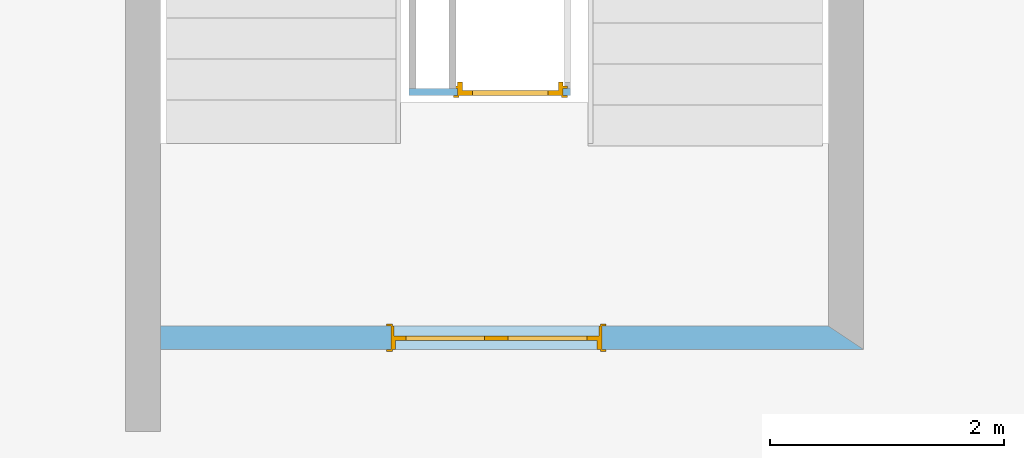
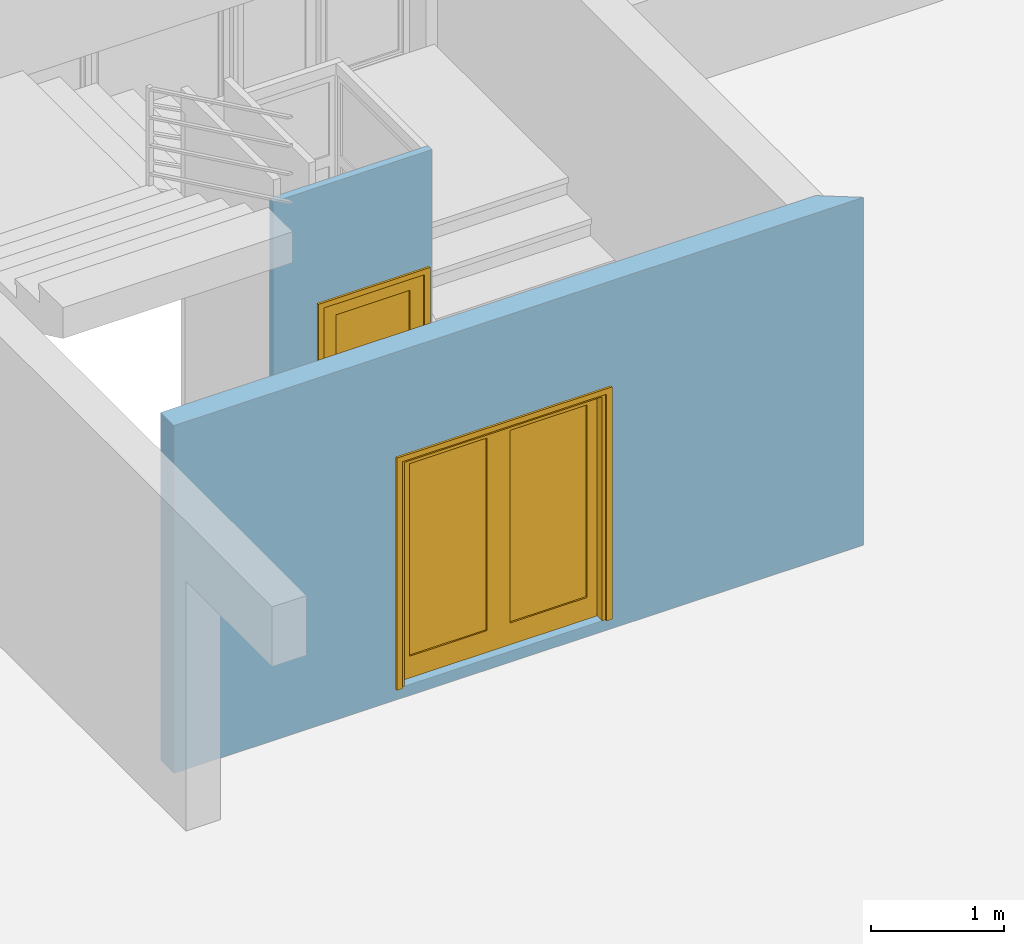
# One storey, part 9 of 10: 2 doors, 3 openings, plus 2 elements that do not belong to this part.
"""IFC2X3 building model written with IfcOpenShell, lengths in millimetres."""

import ifcopenshell
import ifcopenshell.guid

model = None  # the IFC model being written
_history = None  # IfcOwnerHistory: only IFC2X3 demands one
_inside = {}  # id of a spatial element -> (the spatial element, [elements in it])
_under = {}  # id of a project, library or spatial element -> (it, [spatial elements below it])
_declared = {}  # id of a project -> (the project, [libraries it declares])
_typed = {}  # id of a type object -> (the type object, [elements of that type])
_made_of = {}  # id of a material, layer set ... -> (it, [elements and type objects made of it])


def new_model(schema):
    """Start an empty IFC model of exactly this schema.

    Asked for "IFC4X3", IfcOpenShell would pick the latest addendum, in which some entities
    have other attributes; the version numbers below select the first issue.
    IFC2X3 requires an IfcOwnerHistory on every rooted entity: one is made here for all.
    """
    global model, _history
    if schema == "IFC4X3":
        model = ifcopenshell.file(schema_version=(4, 3, 0, 0))
    else:
        model = ifcopenshell.file(schema=schema)
    _inside.clear()
    _under.clear()
    _declared.clear()
    _typed.clear()
    _made_of.clear()
    _history = None
    if model.schema == "IFC2X3":
        org = make("IfcOrganization", Name="unknown")
        user = make(
            "IfcPersonAndOrganization",
            ThePerson=make("IfcPerson", FamilyName="unknown"),
            TheOrganization=org,
        )
        app = make(
            "IfcApplication",
            ApplicationDeveloper=org,
            Version="unknown",
            ApplicationFullName="unknown",
            ApplicationIdentifier="unknown",
        )
        _history = make(
            "IfcOwnerHistory",
            OwningUser=user,
            OwningApplication=app,
            ChangeAction="ADDED",
            CreationDate=0,
        )
    return model


def make(cls, **values):
    """One entity of the class cls with the attributes given. An attribute that is None is left unset."""
    return model.create_entity(
        cls, **{name: value for name, value in values.items() if value is not None}
    )


def entity(cls, *values):
    """Any entity or typed value of the class cls, its attributes in the order of the schema. None: left unset."""
    e = model.create_entity(cls)
    for i, value in enumerate(values):
        if value is not None:
            e[i] = value
    return e


def rooted(cls, **values):
    """An entity with a GlobalId (a new one), such as an element, a storey or a relation."""
    return make(cls, GlobalId=ifcopenshell.guid.new(), OwnerHistory=_history, **values)


def si_unit(unit_type, name, prefix=None):
    """IfcSIUnit, for example si_unit("LENGTHUNIT", "METRE", prefix="MILLI")."""
    return make("IfcSIUnit", UnitType=unit_type, Prefix=prefix, Name=name)


def converted_unit(unit_type, name, factor, base, dimensions=None, offset=None):
    """IfcConversionBasedUnit, such as the inch: factor (a typed value) times the base unit."""
    return make(
        "IfcConversionBasedUnit"
        if offset is None
        else "IfcConversionBasedUnitWithOffset",
        ConversionOffset=offset,
        Dimensions=None
        if dimensions is None
        else entity("IfcDimensionalExponents", *dimensions),
        UnitType=unit_type,
        Name=name,
        ConversionFactor=make(
            "IfcMeasureWithUnit", ValueComponent=factor, UnitComponent=base
        ),
    )


def money_unit(currency):
    """IfcMonetaryUnit."""
    return make("IfcMonetaryUnit", Currency=currency)


def assignment(units):
    """IfcUnitAssignment: the units of a project."""
    return None if units is None else make("IfcUnitAssignment", Units=units)


def point(xyz):
    """IfcCartesianPoint."""
    return None if xyz is None else make("IfcCartesianPoint", Coordinates=xyz)


def direction(xyz):
    """IfcDirection."""
    return None if xyz is None else make("IfcDirection", DirectionRatios=xyz)


def frame(location, z_axis=None, x_axis=None):
    """IfcAxis2Placement3D, a coordinate frame: its origin and axes. An axis left out is left unset."""
    return make(
        "IfcAxis2Placement3D",
        Location=point(location),
        Axis=direction(z_axis),
        RefDirection=direction(x_axis),
    )


def origin_with_axes():
    """The frame at (0, 0, 0) with the z axis (0, 0, 1) and the x axis (1, 0, 0) written out."""
    return frame((0.0, 0.0, 0.0), z_axis=(0.0, 0.0, 1.0), x_axis=(1.0, 0.0, 0.0))


def place(relative_to, where):
    """IfcLocalPlacement: puts the frame where relative to a parent placement (None: the world)."""
    return make(
        "IfcLocalPlacement", PlacementRelTo=relative_to, RelativePlacement=where
    )


def context(
    kind, dimensions, precision=None, world=None, true_north=None, identifier=None
):
    """IfcGeometricRepresentationContext, for example the 3D "Model" context."""
    return make(
        "IfcGeometricRepresentationContext",
        ContextIdentifier=identifier,
        ContextType=kind,
        CoordinateSpaceDimension=dimensions,
        Precision=precision,
        WorldCoordinateSystem=world,
        TrueNorth=true_north,
    )


def subcontext(parent, identifier, kind, view, scale=None):
    """IfcGeometricRepresentationSubContext, for example "Body" below "Model"."""
    return make(
        "IfcGeometricRepresentationSubContext",
        ContextIdentifier=identifier,
        ContextType=kind,
        ParentContext=parent,
        TargetScale=scale,
        TargetView=view,
    )


def project(units=None, contexts=None):
    """IfcProject with its units and contexts."""
    return rooted(
        "IfcProject",
        Name="project",
        RepresentationContexts=contexts,
        UnitsInContext=assignment(units),
    )


def spatial(cls, under=None, at=None, **own):
    """A site, building, storey or space (cls), placed at a placement, below another one or the project."""
    s = rooted(cls, ObjectPlacement=at, **own)
    if under is not None:
        _under.setdefault(under.id(), (under, []))[1].append(s)
    return s


def polyline(points):
    """IfcPolyline through the points."""
    return make("IfcPolyline", Points=[point(p) for p in points])


def outline(outer, holes=None, kind="AREA"):
    """IfcArbitraryClosedProfileDef: a profile drawn as a closed curve; with holes, ...WithVoids."""
    if holes is None:
        return make("IfcArbitraryClosedProfileDef", ProfileType=kind, OuterCurve=outer)
    return make(
        "IfcArbitraryProfileDefWithVoids",
        ProfileType=kind,
        OuterCurve=outer,
        InnerCurves=holes,
    )


def extrude(swept, where, along, depth):
    """IfcExtrudedAreaSolid: the profile swept, set in the frame where, extruded along a direction by depth."""
    return make(
        "IfcExtrudedAreaSolid",
        SweptArea=swept,
        Position=where,
        ExtrudedDirection=direction(along),
        Depth=depth,
    )


def faces_of(points, faces, orient=None, outer=None):
    """IfcFace entities. A face is a list of loops; a loop is a list of indices into points, from 0.

    orient and outer hold one flag for each loop. By default every Orientation is true, the
    first loop of a face is its IfcFaceOuterBound and the others are IfcFaceBound.
    """
    made = []
    for i, loops in enumerate(faces):
        bounds = []
        for j, loop in enumerate(loops):
            is_outer = j == 0 if outer is None else outer[i][j]
            bounds.append(
                make(
                    "IfcFaceOuterBound" if is_outer else "IfcFaceBound",
                    Bound=make("IfcPolyLoop", Polygon=[points[k] for k in loop]),
                    Orientation=True if orient is None else orient[i][j],
                )
            )
        made.append(make("IfcFace", Bounds=bounds))
    return made


def open_shell(faces, orient=None, outer=None):
    """The faces of one IfcOpenShell. surface_model builds it on its shared points."""
    return ("IfcOpenShell", faces, orient, outer)


def faceted_brep(points, faces, orient=None, outer=None, voids=None):
    """IfcFacetedBrep: a solid bounded by flat faces; with voids (closed shells), ...WithVoids."""
    shared = [point(p) for p in points]
    hull = make("IfcClosedShell", CfsFaces=faces_of(shared, faces, orient, outer))
    if voids is None:
        return make("IfcFacetedBrep", Outer=hull)
    return make(
        "IfcFacetedBrepWithVoids",
        Outer=hull,
        Voids=[
            make(cls, CfsFaces=faces_of(shared, fs, o, b)) for cls, fs, o, b in voids
        ],
    )


def surface_model(cls, points, shells):
    """IfcFaceBasedSurfaceModel or IfcShellBasedSurfaceModel (cls): surfaces that need not close."""
    shared = [point(p) for p in points]
    made = [make(c, CfsFaces=faces_of(shared, fs, o, b)) for c, fs, o, b in shells]
    if cls == "IfcFaceBasedSurfaceModel":
        return make(cls, FbsmFaces=made)
    return make(cls, SbsmBoundary=made)


def shape(context_of_items, identifier, shape_type, items):
    """IfcShapeRepresentation: the items that make up one representation, for example the "Body"."""
    return make(
        "IfcShapeRepresentation",
        ContextOfItems=context_of_items,
        RepresentationIdentifier=identifier,
        RepresentationType=shape_type,
        Items=items,
    )


def material(Name=None, Category=None):
    """IfcMaterial."""
    return make("IfcMaterial", Name=Name, Category=Category)


def material_list(materials):
    """IfcMaterialList."""
    return make("IfcMaterialList", Materials=materials)


def layer(
    of_material, thickness, ventilated=None, Name=None, Category=None, Priority=None
):
    """IfcMaterialLayer: one layer of a wall or slab, of a material (None: an air gap)."""
    return make(
        "IfcMaterialLayer",
        Material=of_material,
        LayerThickness=thickness,
        IsVentilated=ventilated,
        Name=Name,
        Category=Category,
        Priority=Priority,
    )


def layer_set(layers, Name=None):
    """IfcMaterialLayerSet."""
    return make("IfcMaterialLayerSet", MaterialLayers=layers, LayerSetName=Name)


def layer_usage(for_layer_set, set_direction, sense, offset, extent=None):
    """IfcMaterialLayerSetUsage: how a layer set lies in its element."""
    return make(
        "IfcMaterialLayerSetUsage",
        ForLayerSet=for_layer_set,
        LayerSetDirection=set_direction,
        DirectionSense=sense,
        OffsetFromReferenceLine=offset,
        ReferenceExtent=extent,
    )


def made_of(thing, what):
    """Note that an element or type object is made of a material, layer set ...; save() writes the relation."""
    if what is not None:
        _made_of.setdefault(what.id(), (what, []))[1].append(thing)
    return thing


def type_object(cls, material=None, **own):
    """A type object (cls), such as IfcWallType, which elements share."""
    return made_of(rooted(cls, **own), material)


def element(
    cls,
    number,
    at=None,
    inside=None,
    cuts=None,
    type_object=None,
    material=None,
    context=None,
    identifier="Body",
    shape_type=None,
    held_by="IfcProductDefinitionShape",
    body=None,
    shapes=None,
    **own,
):
    """One element of the class cls, such as IfcWall. Its Tag is "e" and its number.

    at: its placement. inside: the storey or other place that contains it. cuts: it is an
    opening in that element (IfcRelVoidsElement). A single representation is given by context,
    identifier, shape_type and body (its items); several are given by shapes. held_by: the class
    of the entity that holds the representations. save() writes the other relations.
    """
    e = rooted(cls, Tag="e%d" % number, ObjectPlacement=at, **own)
    if body is not None:
        shapes = [shape(context, identifier, shape_type, body)]
    if shapes is not None:
        e.Representation = make(held_by, Representations=shapes)
    if inside is not None:
        _inside.setdefault(inside.id(), (inside, []))[1].append(e)
    if cuts is not None:
        rooted(
            "IfcRelVoidsElement", RelatingBuildingElement=cuts, RelatedOpeningElement=e
        )
    if type_object is not None:
        _typed.setdefault(type_object.id(), (type_object, []))[1].append(e)
    return made_of(e, material)


def fill(opening, filler):
    """IfcRelFillsElement: the door or window that sits in an opening."""
    return rooted(
        "IfcRelFillsElement",
        RelatingOpeningElement=opening,
        RelatedBuildingElement=filler,
    )


def aggregate(whole, parts):
    """IfcRelAggregates: a whole, such as a stair, and the parts it consists of."""
    return rooted("IfcRelAggregates", RelatingObject=whole, RelatedObjects=parts)


def save(model, path):
    """Write the relations noted so far, then the file.

    IfcRelAggregates (storeys below a building ...), IfcRelContainedInSpatialStructure (elements
    in a storey), IfcRelDefinesByType, IfcRelAssociatesMaterial and IfcRelDeclares: one each for
    every whole, place, type object, material and project.
    """
    for whole, parts in _under.values():
        aggregate(whole, parts)
    for where, things in _inside.values():
        rooted(
            "IfcRelContainedInSpatialStructure",
            RelatedElements=things,
            RelatingStructure=where,
        )
    for kind, things in _typed.values():
        rooted("IfcRelDefinesByType", RelatedObjects=things, RelatingType=kind)
    for what, things in _made_of.values():
        rooted("IfcRelAssociatesMaterial", RelatedObjects=things, RelatingMaterial=what)
    for by, libraries in _declared.values():
        rooted("IfcRelDeclares", RelatingContext=by, RelatedDefinitions=libraries)
    model.write(path)


model = new_model("IFC2X3")

# Units and contexts
model_context = context("Model", 3, precision=1e-05, world=origin_with_axes(), true_north=direction((0.0, 1.0)))
body_context = subcontext(model_context, "Body", "Model", "MODEL_VIEW")
ifc_project = project(units=[si_unit("LENGTHUNIT", "METRE", prefix="MILLI"), si_unit("AREAUNIT", "SQUARE_METRE"), si_unit("VOLUMEUNIT", "CUBIC_METRE"), converted_unit("PLANEANGLEUNIT", "DEGREE", entity("IfcPlaneAngleMeasure", 0.0174532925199), si_unit("PLANEANGLEUNIT", "RADIAN"), dimensions=[0, 0, 0, 0, 0, 0, 0]), si_unit("SOLIDANGLEUNIT", "STERADIAN"), money_unit("USD"), converted_unit("TIMEUNIT", "Year", entity("IfcTimeMeasure", 31556926.0), si_unit("TIMEUNIT", "SECOND"), dimensions=[0, 0, 0, 0, 0, 0, 0]), si_unit("MASSUNIT", "GRAM"), si_unit("THERMODYNAMICTEMPERATUREUNIT", "DEGREE_CELSIUS"), si_unit("LUMINOUSINTENSITYUNIT", "LUMEN")], contexts=[model_context])

# Site, building, storey
site_placement = place(None, origin_with_axes())
site = spatial("IfcSite", under=ifc_project, at=site_placement, Name="Site", CompositionType="ELEMENT")
building_placement = place(site_placement, origin_with_axes())
building = spatial("IfcBuilding", under=site, at=building_placement, Name="Building", CompositionType="ELEMENT")
storey_placement = place(building_placement, origin_with_axes())
storey = spatial("IfcBuildingStorey", under=building, at=storey_placement, Name="2KORRUS", CompositionType="ELEMENT", Elevation=0.0)

# Wall, opening, door
ifc_material_1 = material(Name="Terasprofiil")
ifc_layer_1 = layer(ifc_material_1, 60.0, ventilated="UNKNOWN")
ifc_layer_set_1 = layer_set([ifc_layer_1], Name="Terasprofiil 60")
ifc_layer_usage_1 = layer_usage(ifc_layer_set_1, "AXIS2", "POSITIVE", -60.0)
wall_type_1 = type_object("IfcWallType", Name="Terasprofiil 60", PredefinedType="NOTDEFINED")
wall_1_placement = place(storey_placement, frame((-8491.93119318, -8870.64352695, 0.0), z_axis=(0.0, 0.0, 1.0), x_axis=(-1.0, 0.0, 0.0)))
wall_1 = element("IfcWallStandardCase", 1, at=wall_1_placement, inside=storey, type_object=wall_type_1, material=ifc_layer_usage_1, Name="LS1", ObjectType="Lifti sein", context=body_context, shape_type="SweptSolid", body=[
    extrude(outline(polyline([(0.0, -60.0), (1377.47535316, -60.0), (1377.47535316, 0.0), (0.0, 0.0), (0.0, -60.0)])), origin_with_axes(), (0.0, 0.0, 1.0), 3200.0),
])
opening_1_placement = place(wall_1_placement, frame((512.692164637, 0.0, 0.0), z_axis=(0.0, 0.0, 1.0), x_axis=(1.0, 0.0, 0.0)))
opening_1 = element("IfcOpeningElement", 2, at=opening_1_placement, cuts=wall_1, Name="Liftiuks", context=body_context, shape_type="SweptSolid", body=[
    extrude(outline(polyline([(-450.0, -2100.0), (450.0, -2100.0), (450.0, 0.0), (-450.0, 0.0), (-450.0, -2100.0)])), frame((0.0, -60.0, 0.0), z_axis=(0.0, 1.0, 0.0), x_axis=(1.0, 0.0, 0.0)), (0.0, 0.0, 1.0), 180.0),
    extrude(outline(polyline([(-487.0, 2137.0), (-487.0, 0.0), (487.0, 0.0), (487.0, 2137.0), (-487.0, 2137.0)])), frame((0.0, -60.0, 0.0), z_axis=(0.0, -1.0, 0.0), x_axis=(1.0, 0.0, 0.0)), (0.0, 0.0, 1.0), 60.0),
    extrude(outline(polyline([(-487.0, 0.0), (-487.0, -2137.0), (487.0, -2137.0), (487.0, 0.0), (-487.0, 0.0)])), frame((0.0, 0.0, 0.0), z_axis=(0.0, 1.0, 0.0), x_axis=(1.0, 0.0, 0.0)), (0.0, 0.0, 1.0), 60.0),
])
ifc_material_2 = material(Name="Background")
ifc_material_list = material_list([ifc_material_2])
door_style_1 = type_object("IfcDoorStyle", Name="Door 19", ConstructionType="NOTDEFINED", OperationType="SINGLE_SWING_RIGHT", ParameterTakesPrecedence=False, Sizeable=False)
door_1_placement = place(opening_1_placement, frame((-450.0, 0.0, 0.0), z_axis=(0.0, 0.0, 1.0), x_axis=(1.0, 0.0, 0.0)))
door_1 = element("IfcDoor", 3, at=door_1_placement, inside=storey, type_object=door_style_1, material=ifc_material_list, Name="Liftiuks", ObjectType="door", OverallHeight=2100.0, OverallWidth=900.0, context=body_context, shape_type="SurfaceModel", body=[
    faceted_brep([(-37.0, -79.0, 0.0), (-37.0, -60.0, 0.0), (13.0, -60.0, 0.0), (13.0, -79.0, 0.0), (-37.0, -79.0, 2137.0), (-37.0, -60.0, 2137.0), (13.0, -60.0, 2087.0), (13.0, -79.0, 2087.0)], [[[0, 1, 2, 3]], [[4, 5, 1, 0]], [[1, 5, 6, 2]], [[3, 2, 6, 7]], [[0, 3, 7, 4]], [[7, 6, 5, 4]]]),
    faceted_brep([(937.0, -79.0, 2137.0), (937.0, -60.0, 2137.0), (887.0, -60.0, 2087.0), (887.0, -79.0, 2087.0), (937.0, -79.0, 0.0), (937.0, -60.0, 0.0), (887.0, -60.0, 0.0), (887.0, -79.0, 0.0)], [[[0, 1, 2, 3]], [[4, 5, 1, 0]], [[1, 5, 6, 2]], [[3, 2, 6, 7]], [[0, 3, 7, 4]], [[7, 6, 5, 4]]]),
    faceted_brep([(-37.0, -79.0, 2137.0), (-37.0, -60.0, 2137.0), (13.0, -60.0, 2087.0), (13.0, -79.0, 2087.0), (937.0, -79.0, 2137.0), (937.0, -60.0, 2137.0), (887.0, -60.0, 2087.0), (887.0, -79.0, 2087.0)], [[[0, 1, 2, 3]], [[4, 5, 1, 0]], [[1, 5, 6, 2]], [[3, 2, 6, 7]], [[0, 3, 7, 4]], [[7, 6, 5, 4]]]),
    faceted_brep([(-37.0, 19.0, 0.0), (13.0, 19.0, 0.0), (13.0, 0.0, 0.0), (-37.0, 0.0, 0.0), (-37.0, 19.0, 2137.0), (13.0, 19.0, 2087.0), (13.0, 0.0, 2087.0), (-37.0, 0.0, 2137.0)], [[[0, 1, 2, 3]], [[0, 4, 5, 1]], [[1, 5, 6, 2]], [[3, 2, 6, 7]], [[4, 0, 3, 7]], [[5, 4, 7, 6]]]),
    faceted_brep([(937.0, 19.0, 2137.0), (887.0, 19.0, 2087.0), (887.0, 0.0, 2087.0), (937.0, 0.0, 2137.0), (937.0, 19.0, 0.0), (887.0, 19.0, 0.0), (887.0, 0.0, 0.0), (937.0, 0.0, 0.0)], [[[0, 1, 2, 3]], [[0, 4, 5, 1]], [[1, 5, 6, 2]], [[3, 2, 6, 7]], [[4, 0, 3, 7]], [[5, 4, 7, 6]]]),
    faceted_brep([(-37.0, 19.0, 2137.0), (13.0, 19.0, 2087.0), (13.0, 0.0, 2087.0), (-37.0, 0.0, 2137.0), (937.0, 19.0, 2137.0), (887.0, 19.0, 2087.0), (887.0, 0.0, 2087.0), (937.0, 0.0, 2137.0)], [[[0, 1, 2, 3]], [[0, 4, 5, 1]], [[1, 5, 6, 2]], [[3, 2, 6, 7]], [[4, 0, 3, 7]], [[5, 4, 7, 6]]]),
    faceted_brep([(40.0, -40.0, 0.0), (40.0, -40.0, 2060.0), (40.0, -115.0, 2060.0), (40.0, -115.0, 0.0), (28.0, -40.0, 2060.0), (28.0, -40.0, 0.0), (28.0, 0.0, 2060.0), (0.0, 0.0, 2060.0), (0.0, -115.0, 2060.0), (0.0, -115.0, 0.0), (0.0, 0.0, 0.0), (28.0, 0.0, 0.0)], [[[0, 1, 2, 3]], [[4, 1, 0, 5]], [[4, 6, 7, 8, 2, 1]], [[2, 8, 9, 3]], [[5, 0, 3, 9, 10, 11]], [[6, 4, 5, 11]], [[6, 11, 10, 7]], [[9, 8, 7, 10]]]),
    faceted_brep([(872.0, -40.0, 2060.0), (860.0, -40.0, 2060.0), (860.0, -115.0, 2060.0), (900.0, -115.0, 2060.0), (900.0, 0.0, 2060.0), (872.0, 0.0, 2060.0), (872.0, -40.0, 0.0), (860.0, -40.0, 0.0), (860.0, -115.0, 0.0), (900.0, -115.0, 0.0), (900.0, 0.0, 0.0), (872.0, 0.0, 0.0)], [[[0, 1, 2, 3, 4, 5]], [[1, 0, 6, 7]], [[1, 7, 8, 2]], [[2, 8, 9, 3]], [[3, 9, 10, 4]], [[11, 5, 4, 10]], [[0, 5, 11, 6]], [[6, 11, 10, 9, 8, 7]]]),
    faceted_brep([(28.0, 0.0, 2072.0), (28.0, 0.0, 2060.0), (0.0, 0.0, 2060.0), (0.0, 0.0, 2100.0), (900.0, 0.0, 2100.0), (900.0, 0.0, 2060.0), (872.0, 0.0, 2060.0), (872.0, 0.0, 2072.0), (28.0, -40.0, 2072.0), (28.0, -40.0, 2060.0), (40.0, -40.0, 2060.0), (40.0, -115.0, 2060.0), (0.0, -115.0, 2060.0), (0.0, -115.0, 2100.0), (900.0, -115.0, 2100.0), (900.0, -115.0, 2060.0), (872.0, -40.0, 2060.0), (860.0, -115.0, 2060.0), (860.0, -40.0, 2060.0), (872.0, -40.0, 2072.0)], [[[0, 1, 2, 3, 4, 5, 6, 7]], [[1, 0, 8, 9]], [[9, 10, 11, 12, 2, 1]], [[12, 13, 3, 2]], [[13, 14, 4, 3]], [[14, 15, 5, 4]], [[16, 6, 5, 15, 17, 18]], [[7, 6, 16, 19]], [[0, 7, 19, 8]], [[16, 18, 10, 9, 8, 19]], [[10, 18, 17, 11]], [[15, 14, 13, 12, 11, 17]]]),
    faceted_brep([(872.0, 0.0, 200.0), (872.0, -40.0, 200.0), (772.0, -40.0, 200.0), (772.0, 0.0, 200.0), (872.0, 0.0, 1972.0), (872.0, -40.0, 1972.0), (772.0, -40.0, 1972.0), (772.0, 0.0, 1972.0)], [[[0, 1, 2, 3]], [[4, 5, 1, 0]], [[1, 5, 6, 2]], [[3, 2, 6, 7]], [[0, 3, 7, 4]], [[7, 6, 5, 4]]]),
    faceted_brep([(28.0, 0.0, 200.0), (28.0, -40.0, 200.0), (28.0, -40.0, 1972.0), (28.0, 0.0, 1972.0), (128.0, 0.0, 200.0), (128.0, -40.0, 200.0), (128.0, -40.0, 1972.0), (128.0, 0.0, 1972.0)], [[[0, 1, 2, 3]], [[4, 5, 1, 0]], [[1, 5, 6, 2]], [[3, 2, 6, 7]], [[0, 3, 7, 4]], [[7, 6, 5, 4]]]),
    faceted_brep([(872.0, 0.0, 0.0), (872.0, -40.0, 0.0), (28.0, -40.0, 0.0), (28.0, 0.0, 0.0), (872.0, 0.0, 200.0), (872.0, -40.0, 200.0), (772.0, -40.0, 200.0), (128.0, -40.0, 200.0), (28.0, -40.0, 200.0), (28.0, 0.0, 200.0), (128.0, 0.0, 200.0), (772.0, 0.0, 200.0)], [[[0, 1, 2, 3]], [[4, 5, 1, 0]], [[1, 5, 6, 7, 8, 2]], [[3, 2, 8, 9]], [[0, 3, 9, 10, 11, 4]], [[11, 6, 5, 4]], [[10, 7, 6, 11]], [[9, 8, 7, 10]]]),
    faceted_brep([(872.0, 0.0, 2072.0), (872.0, -40.0, 2072.0), (872.0, -40.0, 1972.0), (872.0, 0.0, 1972.0), (28.0, 0.0, 2072.0), (28.0, -40.0, 2072.0), (28.0, -40.0, 1972.0), (128.0, -40.0, 1972.0), (772.0, -40.0, 1972.0), (772.0, 0.0, 1972.0), (128.0, 0.0, 1972.0), (28.0, 0.0, 1972.0)], [[[0, 1, 2, 3]], [[4, 5, 1, 0]], [[1, 5, 6, 7, 8, 2]], [[3, 2, 8, 9]], [[0, 3, 9, 10, 11, 4]], [[11, 6, 5, 4]], [[10, 7, 6, 11]], [[9, 8, 7, 10]]]),
    surface_model("IfcShellBasedSurfaceModel", [(772.0, -14.0, 200.0), (128.0, -14.0, 200.0), (128.0, -14.0, 1972.0), (772.0, -14.0, 1972.0)], [open_shell([[[0, 1, 2, 3]]])]),
    surface_model("IfcShellBasedSurfaceModel", [(772.0, -26.0, 200.0), (772.0, -26.0, 1972.0), (128.0, -26.0, 1972.0), (128.0, -26.0, 200.0)], [open_shell([[[0, 1, 2, 3]]])]),
])
fill(opening_1, door_1)

# Wall, openings, door
ifc_material_3 = material(Name="Olemasolevad seinad tellis, uus viimistlus")
ifc_layer_2 = layer(ifc_material_3, 200.0, ventilated="UNKNOWN")
ifc_layer_set_2 = layer_set([ifc_layer_2], Name="Olemasolevad seinad tellis, uus viimistlus 200")
ifc_layer_usage_2 = layer_usage(ifc_layer_set_2, "AXIS2", "POSITIVE", -200.0)
wall_type_2 = type_object("IfcWallType", Name="Olemasolevad seinad tellis, uus viimistlus 200", PredefinedType="NOTDEFINED")
wall_2_placement = place(storey_placement, frame((-5990.29670331, -11039.6041088, 0.0), z_axis=(0.0, 0.0, 1.0), x_axis=(-1.0, 0.0, 0.0)))
wall_2 = element("IfcWallStandardCase", 4, at=wall_2_placement, inside=storey, type_object=wall_type_2, material=ifc_layer_usage_2, Name="ks1", ObjectType="ks1", context=body_context, shape_type="SweptSolid", body=[
    extrude(outline(polyline([(300.0, -200.0), (5999.99999999, -200.0), (5999.99999999, 0.0), (0.0, 0.0), (300.0, -200.0)])), origin_with_axes(), (0.0, 0.0, 1.0), 3200.0),
])
opening_2_placement = place(wall_2_placement, frame((3133.31707985, 0.0, 100.0), z_axis=(0.0, 0.0, 1.0), x_axis=(1.0, 0.0, 0.0)))
element("IfcOpeningElement", 5, at=opening_2_placement, cuts=wall_2, Name="WD - 001", context=body_context, shape_type="SweptSolid", body=[
    extrude(outline(polyline([(900.0, 0.0), (-900.0, 0.0), (-900.0, -2100.0), (900.0, -2100.0), (900.0, 0.0)])), frame((0.0, -200.0, 0.0), z_axis=(0.0, 1.0, 0.0), x_axis=(1.0, 0.0, 0.0)), (0.0, 0.0, 1.0), 600.0),
])
opening_3_placement = place(wall_2_placement, frame((3133.31707985, 0.0, 100.0), z_axis=(0.0, 0.0, 1.0), x_axis=(1.0, 0.0, 0.0)))
opening_3 = element("IfcOpeningElement", 6, at=opening_3_placement, cuts=wall_2, Name="SU5", context=body_context, shape_type="SweptSolid", body=[
    extrude(outline(polyline([(-900.0, 0.0), (900.0, 0.0), (900.0, 2100.0), (-900.0, 2100.0), (-900.0, 0.0)])), frame((0.0, -200.0, 0.0), z_axis=(0.0, 1.0, 0.0), x_axis=(-1.0, 0.0, 0.0)), (0.0, 0.0, 1.0), 600.0),
    extrude(outline(polyline([(-937.0, 0.0), (-937.0, -2137.0), (937.0, -2137.0), (937.0, 0.0), (-937.0, 0.0)])), frame((0.0, -200.0, 0.0), z_axis=(0.0, -1.0, 0.0), x_axis=(-1.0, 0.0, 0.0)), (0.0, 0.0, 1.0), 200.0),
    extrude(outline(polyline([(-937.0, 2137.0), (-937.0, 0.0), (937.0, 0.0), (937.0, 2137.0), (-937.0, 2137.0)])), frame((0.0, 0.0, 0.0), z_axis=(0.0, 1.0, 0.0), x_axis=(-1.0, 0.0, 0.0)), (0.0, 0.0, 1.0), 200.0),
])
door_style_2 = type_object("IfcDoorStyle", Name="Double Door 19", ConstructionType="NOTDEFINED", OperationType="DOUBLE_DOOR_SINGLE_SWING", ParameterTakesPrecedence=False, Sizeable=False)
door_2_placement = place(opening_3_placement, frame((900.0, 0.0, 0.0), z_axis=(0.0, 0.0, 1.0), x_axis=(-1.0, 0.0, 0.0)))
door_2 = element("IfcDoor", 7, at=door_2_placement, inside=storey, type_object=door_style_2, material=ifc_material_list, Name="SU5", ObjectType="Trepkoja uks", OverallHeight=2100.0, OverallWidth=1800.0, context=body_context, shape_type="SurfaceModel", body=[
    faceted_brep([(0.0, 115.0, 0.0), (0.0, 200.0, 0.0), (25.0, 200.0, 0.0), (25.0, 115.0, 0.0), (0.0, 115.0, 2100.0), (0.0, 200.0, 2100.0), (25.0, 200.0, 2075.0), (25.0, 115.0, 2075.0)], [[[0, 1, 2, 3]], [[4, 5, 1, 0]], [[1, 5, 6, 2]], [[3, 2, 6, 7]], [[0, 3, 7, 4]], [[7, 6, 5, 4]]]),
    faceted_brep([(1800.0, 115.0, 2100.0), (1800.0, 200.0, 2100.0), (1775.0, 200.0, 2075.0), (1775.0, 115.0, 2075.0), (1800.0, 115.0, 0.0), (1800.0, 200.0, 0.0), (1775.0, 200.0, 0.0), (1775.0, 115.0, 0.0)], [[[0, 1, 2, 3]], [[4, 5, 1, 0]], [[1, 5, 6, 2]], [[3, 2, 6, 7]], [[0, 3, 7, 4]], [[7, 6, 5, 4]]]),
    faceted_brep([(25.0, 115.0, 2075.0), (25.0, 200.0, 2075.0), (1775.0, 200.0, 2075.0), (1775.0, 115.0, 2075.0), (0.0, 115.0, 2100.0), (0.0, 200.0, 2100.0), (1800.0, 200.0, 2100.0), (1800.0, 115.0, 2100.0)], [[[0, 1, 2, 3]], [[4, 5, 1, 0]], [[1, 5, 6, 2]], [[3, 2, 6, 7]], [[0, 3, 7, 4]], [[7, 6, 5, 4]]]),
    faceted_brep([(-37.0, 219.0, 0.0), (13.0, 219.0, 0.0), (13.0, 200.0, 0.0), (-37.0, 200.0, 0.0), (-37.0, 219.0, 2137.0), (13.0, 219.0, 2087.0), (13.0, 200.0, 2087.0), (-37.0, 200.0, 2137.0)], [[[0, 1, 2, 3]], [[0, 4, 5, 1]], [[1, 5, 6, 2]], [[3, 2, 6, 7]], [[4, 0, 3, 7]], [[5, 4, 7, 6]]]),
    faceted_brep([(1837.0, 219.0, 2137.0), (1787.0, 219.0, 2087.0), (1787.0, 200.0, 2087.0), (1837.0, 200.0, 2137.0), (1837.0, 219.0, 0.0), (1787.0, 219.0, 0.0), (1787.0, 200.0, 0.0), (1837.0, 200.0, 0.0)], [[[0, 1, 2, 3]], [[0, 4, 5, 1]], [[1, 5, 6, 2]], [[3, 2, 6, 7]], [[4, 0, 3, 7]], [[5, 4, 7, 6]]]),
    faceted_brep([(-37.0, 219.0, 2137.0), (13.0, 219.0, 2087.0), (13.0, 200.0, 2087.0), (-37.0, 200.0, 2137.0), (1837.0, 219.0, 2137.0), (1787.0, 219.0, 2087.0), (1787.0, 200.0, 2087.0), (1837.0, 200.0, 2137.0)], [[[0, 1, 2, 3]], [[0, 4, 5, 1]], [[1, 5, 6, 2]], [[3, 2, 6, 7]], [[4, 0, 3, 7]], [[5, 4, 7, 6]]]),
    faceted_brep([(-37.0, -19.0, 0.0), (-37.0, 0.0, 0.0), (13.0, 0.0, 0.0), (13.0, -19.0, 0.0), (-37.0, -19.0, 2137.0), (-37.0, 0.0, 2137.0), (13.0, 0.0, 2087.0), (13.0, -19.0, 2087.0)], [[[0, 1, 2, 3]], [[4, 5, 1, 0]], [[1, 5, 6, 2]], [[3, 2, 6, 7]], [[0, 3, 7, 4]], [[7, 6, 5, 4]]]),
    faceted_brep([(1837.0, -19.0, 2137.0), (1837.0, 0.0, 2137.0), (1787.0, 0.0, 2087.0), (1787.0, -19.0, 2087.0), (1837.0, -19.0, 0.0), (1837.0, 0.0, 0.0), (1787.0, 0.0, 0.0), (1787.0, -19.0, 0.0)], [[[0, 1, 2, 3]], [[4, 5, 1, 0]], [[1, 5, 6, 2]], [[3, 2, 6, 7]], [[0, 3, 7, 4]], [[7, 6, 5, 4]]]),
    faceted_brep([(-37.0, -19.0, 2137.0), (-37.0, 0.0, 2137.0), (13.0, 0.0, 2087.0), (13.0, -19.0, 2087.0), (1837.0, -19.0, 2137.0), (1837.0, 0.0, 2137.0), (1787.0, 0.0, 2087.0), (1787.0, -19.0, 2087.0)], [[[0, 1, 2, 3]], [[4, 5, 1, 0]], [[1, 5, 6, 2]], [[3, 2, 6, 7]], [[0, 3, 7, 4]], [[7, 6, 5, 4]]]),
    faceted_brep([(40.0, 75.0, 0.0), (40.0, 75.0, 2060.0), (40.0, 0.0, 2060.0), (40.0, 0.0, 0.0), (28.0, 75.0, 2060.0), (28.0, 75.0, 0.0), (28.0, 115.0, 2060.0), (0.0, 115.0, 2060.0), (0.0, 0.0, 2060.0), (0.0, 0.0, 0.0), (0.0, 115.0, 0.0), (28.0, 115.0, 0.0)], [[[0, 1, 2, 3]], [[4, 1, 0, 5]], [[4, 6, 7, 8, 2, 1]], [[2, 8, 9, 3]], [[5, 0, 3, 9, 10, 11]], [[6, 4, 5, 11]], [[6, 11, 10, 7]], [[9, 8, 7, 10]]]),
    faceted_brep([(1772.0, 75.0, 2060.0), (1760.0, 75.0, 2060.0), (1760.0, 0.0, 2060.0), (1800.0, 0.0, 2060.0), (1800.0, 115.0, 2060.0), (1772.0, 115.0, 2060.0), (1772.0, 75.0, 0.0), (1760.0, 75.0, 0.0), (1760.0, 0.0, 0.0), (1800.0, 0.0, 0.0), (1800.0, 115.0, 0.0), (1772.0, 115.0, 0.0)], [[[0, 1, 2, 3, 4, 5]], [[1, 0, 6, 7]], [[1, 7, 8, 2]], [[2, 8, 9, 3]], [[3, 9, 10, 4]], [[11, 5, 4, 10]], [[0, 5, 11, 6]], [[6, 11, 10, 9, 8, 7]]]),
    faceted_brep([(28.0, 115.0, 2072.0), (28.0, 115.0, 2060.0), (0.0, 115.0, 2060.0), (0.0, 115.0, 2100.0), (1800.0, 115.0, 2100.0), (1800.0, 115.0, 2060.0), (1772.0, 115.0, 2060.0), (1772.0, 115.0, 2072.0), (28.0, 75.0, 2072.0), (28.0, 75.0, 2060.0), (40.0, 75.0, 2060.0), (40.0, 0.0, 2060.0), (0.0, 0.0, 2060.0), (0.0, 0.0, 2100.0), (1800.0, 0.0, 2100.0), (1800.0, 0.0, 2060.0), (1772.0, 75.0, 2060.0), (1760.0, 0.0, 2060.0), (1760.0, 75.0, 2060.0), (1772.0, 75.0, 2072.0)], [[[0, 1, 2, 3, 4, 5, 6, 7]], [[1, 0, 8, 9]], [[9, 10, 11, 12, 2, 1]], [[12, 13, 3, 2]], [[13, 14, 4, 3]], [[14, 15, 5, 4]], [[16, 6, 5, 15, 17, 18]], [[7, 6, 16, 19]], [[0, 7, 19, 8]], [[16, 18, 10, 9, 8, 19]], [[10, 18, 17, 11]], [[15, 14, 13, 12, 11, 17]]]),
    faceted_brep([(1772.0, 115.0, 200.0), (1772.0, 75.0, 200.0), (1672.0, 75.0, 200.0), (1672.0, 115.0, 200.0), (1772.0, 115.0, 1972.0), (1772.0, 75.0, 1972.0), (1672.0, 75.0, 1972.0), (1672.0, 115.0, 1972.0)], [[[0, 1, 2, 3]], [[4, 5, 1, 0]], [[1, 5, 6, 2]], [[3, 2, 6, 7]], [[0, 3, 7, 4]], [[7, 6, 5, 4]]]),
    faceted_brep([(900.0, 115.0, 200.0), (900.0, 75.0, 200.0), (900.0, 75.0, 1972.0), (900.0, 115.0, 1972.0), (1000.0, 115.0, 200.0), (1000.0, 75.0, 200.0), (1000.0, 75.0, 1972.0), (1000.0, 115.0, 1972.0)], [[[0, 1, 2, 3]], [[4, 5, 1, 0]], [[1, 5, 6, 2]], [[3, 2, 6, 7]], [[0, 3, 7, 4]], [[7, 6, 5, 4]]]),
    faceted_brep([(1772.0, 115.0, 0.0), (1772.0, 75.0, 0.0), (900.0, 75.0, 0.0), (900.0, 115.0, 0.0), (1772.0, 115.0, 200.0), (1772.0, 75.0, 200.0), (1672.0, 75.0, 200.0), (1000.0, 75.0, 200.0), (900.0, 75.0, 200.0), (900.0, 115.0, 200.0), (1000.0, 115.0, 200.0), (1672.0, 115.0, 200.0)], [[[0, 1, 2, 3]], [[4, 5, 1, 0]], [[1, 5, 6, 7, 8, 2]], [[3, 2, 8, 9]], [[0, 3, 9, 10, 11, 4]], [[11, 6, 5, 4]], [[10, 7, 6, 11]], [[9, 8, 7, 10]]]),
    faceted_brep([(1772.0, 115.0, 2072.0), (1772.0, 75.0, 2072.0), (1772.0, 75.0, 1972.0), (1772.0, 115.0, 1972.0), (900.0, 115.0, 2072.0), (900.0, 75.0, 2072.0), (900.0, 75.0, 1972.0), (1000.0, 75.0, 1972.0), (1672.0, 75.0, 1972.0), (1672.0, 115.0, 1972.0), (1000.0, 115.0, 1972.0), (900.0, 115.0, 1972.0)], [[[0, 1, 2, 3]], [[4, 5, 1, 0]], [[1, 5, 6, 7, 8, 2]], [[3, 2, 8, 9]], [[0, 3, 9, 10, 11, 4]], [[11, 6, 5, 4]], [[10, 7, 6, 11]], [[9, 8, 7, 10]]]),
    surface_model("IfcShellBasedSurfaceModel", [(1672.0, 101.0, 200.0), (1000.0, 101.0, 200.0), (1000.0, 101.0, 1972.0), (1672.0, 101.0, 1972.0)], [open_shell([[[0, 1, 2, 3]]])]),
    surface_model("IfcShellBasedSurfaceModel", [(1672.0, 89.0, 200.0), (1672.0, 89.0, 1972.0), (1000.0, 89.0, 1972.0), (1000.0, 89.0, 200.0)], [open_shell([[[0, 1, 2, 3]]])]),
    faceted_brep([(28.0, 115.0, 200.0), (128.0, 115.0, 200.0), (128.0, 75.0, 200.0), (28.0, 75.0, 200.0), (28.0, 115.0, 1972.0), (128.0, 115.0, 1972.0), (128.0, 75.0, 1972.0), (28.0, 75.0, 1972.0)], [[[0, 1, 2, 3]], [[0, 4, 5, 1]], [[1, 5, 6, 2]], [[3, 2, 6, 7]], [[4, 0, 3, 7]], [[5, 4, 7, 6]]]),
    faceted_brep([(900.0, 115.0, 200.0), (900.0, 115.0, 1972.0), (900.0, 75.0, 1972.0), (900.0, 75.0, 200.0), (800.0, 115.0, 200.0), (800.0, 115.0, 1972.0), (800.0, 75.0, 1972.0), (800.0, 75.0, 200.0)], [[[0, 1, 2, 3]], [[0, 4, 5, 1]], [[1, 5, 6, 2]], [[3, 2, 6, 7]], [[4, 0, 3, 7]], [[5, 4, 7, 6]]]),
    faceted_brep([(28.0, 115.0, 0.0), (900.0, 115.0, 0.0), (900.0, 75.0, 0.0), (28.0, 75.0, 0.0), (28.0, 115.0, 200.0), (128.0, 115.0, 200.0), (800.0, 115.0, 200.0), (900.0, 115.0, 200.0), (900.0, 75.0, 200.0), (800.0, 75.0, 200.0), (128.0, 75.0, 200.0), (28.0, 75.0, 200.0)], [[[0, 1, 2, 3]], [[0, 4, 5, 6, 7, 1]], [[1, 7, 8, 2]], [[3, 2, 8, 9, 10, 11]], [[4, 0, 3, 11]], [[5, 4, 11, 10]], [[6, 5, 10, 9]], [[7, 6, 9, 8]]]),
    faceted_brep([(28.0, 115.0, 2072.0), (28.0, 115.0, 1972.0), (28.0, 75.0, 1972.0), (28.0, 75.0, 2072.0), (900.0, 115.0, 2072.0), (900.0, 115.0, 1972.0), (800.0, 115.0, 1972.0), (128.0, 115.0, 1972.0), (128.0, 75.0, 1972.0), (800.0, 75.0, 1972.0), (900.0, 75.0, 1972.0), (900.0, 75.0, 2072.0)], [[[0, 1, 2, 3]], [[0, 4, 5, 6, 7, 1]], [[1, 7, 8, 2]], [[3, 2, 8, 9, 10, 11]], [[4, 0, 3, 11]], [[5, 4, 11, 10]], [[6, 5, 10, 9]], [[7, 6, 9, 8]]]),
    surface_model("IfcShellBasedSurfaceModel", [(128.0, 101.0, 200.0), (128.0, 101.0, 1972.0), (800.0, 101.0, 1972.0), (800.0, 101.0, 200.0)], [open_shell([[[0, 1, 2, 3]]])]),
    surface_model("IfcShellBasedSurfaceModel", [(128.0, 89.0, 200.0), (800.0, 89.0, 200.0), (800.0, 89.0, 1972.0), (128.0, 89.0, 1972.0)], [open_shell([[[0, 1, 2, 3]]])]),
])
fill(opening_3, door_2)

save(model, "model.ifc")
